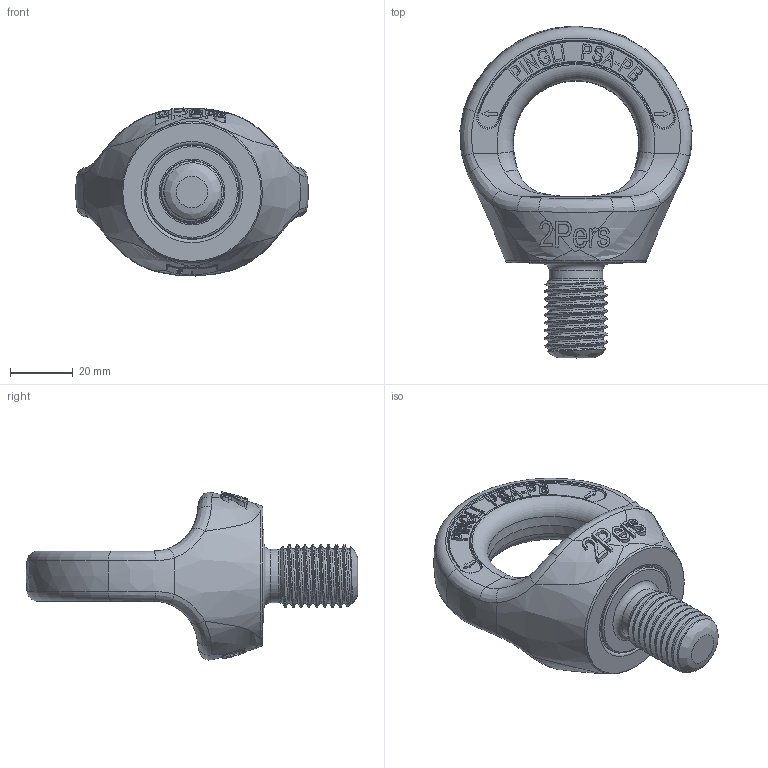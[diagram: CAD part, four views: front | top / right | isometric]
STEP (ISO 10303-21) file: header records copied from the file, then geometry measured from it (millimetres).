
FILE_DESCRIPTION(/* description */ (''),/* implementation_level */ '2;1');
FILE_NAME(/* name */ 'PSA-M20.stp',/* time_stamp */ '2024-06-25T10:35:48+08:00',/* author */ (''),/* organization */ (''),/* preprocessor_version */ 'ST-DEVELOPER v16',/* originating_system */ 'SIEMENS PLM Software NX 10.0',/* authorisation */ '');
FILE_SCHEMA (('CONFIG_CONTROL_DESIGN'));
Length unit declared in the file: millimetre
Products named in the file (3): PBG-M20306; M20-M307; PSA-M20_stp
Assembly tree (2 placements, depth 2):
  PSA-M20_stp
    M20-M307
    PBG-M20306
Bounding box: 74.06 x 105.89 x 53.59 mm (x, y, z)
Volume: 83912.2 mm3; surface area: 23161.6 mm2
Topology: 2 solids, 2 shells, 924 faces, 2422 edges, 1582 vertices
Faces by surface type: plane 393, extrusion 345, bspline 106, cylinder 33, torus 32, cone 14, sphere 1
Full cylindrical faces by diameter (mm): 17 x1, 30 x1, 30.3 x2, 38 x1, 38.6 x1
Entity records: 36531 total; most frequent: CARTESIAN_POINT 15739, ORIENTED_EDGE 4756, DIRECTION 2967, EDGE_CURVE 2378, VECTOR 1583, VERTEX_POINT 1568, B_SPLINE_CURVE_WITH_KNOTS 1267, LINE 1238
